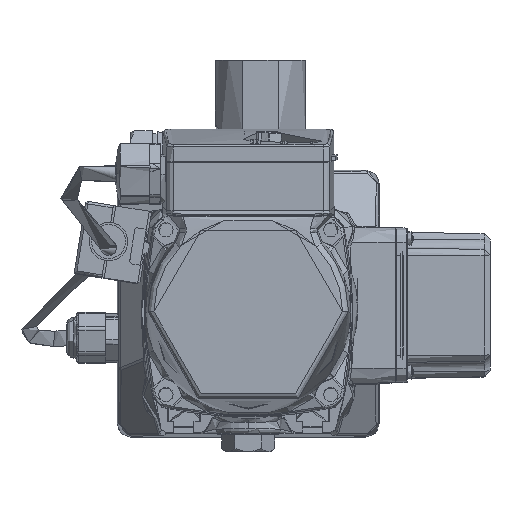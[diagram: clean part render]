
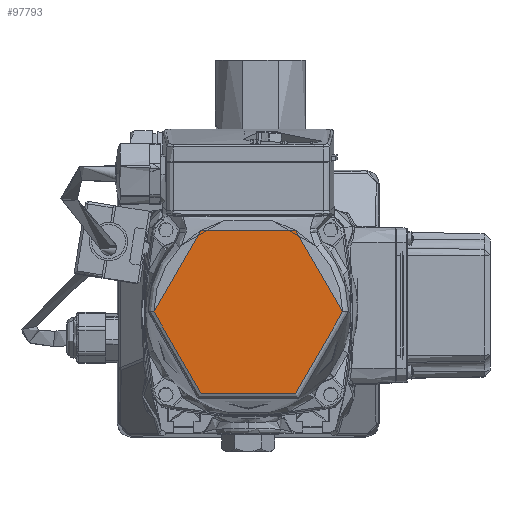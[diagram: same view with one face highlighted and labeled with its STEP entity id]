
A CAD part, top view. The second image highlights one B-rep face of the part: STEP entity #97793.
In plain terms, the highlighted planar face has unit normal (0, 0, 1).
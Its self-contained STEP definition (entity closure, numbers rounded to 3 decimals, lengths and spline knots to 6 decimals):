
#45680=CARTESIAN_POINT('',(0.06469,-0.360078,
0.22694));
#45681=DIRECTION('',(0.,0.,1.));
#45682=DIRECTION('',(1.,0.,0.));
#45683=AXIS2_PLACEMENT_3D('',#45680,#45681,#45682);
#45685=CARTESIAN_POINT('',(0.06469,-0.360078,
0.22694));
#45686=DIRECTION('',(0.,0.,1.));
#45687=DIRECTION('',(-1.,0.,0.));
#45688=AXIS2_PLACEMENT_3D('',#45685,#45686,#45687);
#60570=CARTESIAN_POINT('',(0.10351,-0.360078,
0.22694));
#60571=VERTEX_POINT('',#60570);
#60572=CARTESIAN_POINT('',(0.02587,-0.360078,
0.22694));
#60573=VERTEX_POINT('',#60572);
#97784=CARTESIAN_POINT('',(0.06469,-0.360078,
0.22694));
#97785=DIRECTION('',(0.,0.,1.));
#97786=DIRECTION('',(1.,0.,0.));
#97787=AXIS2_PLACEMENT_3D('',#97784,#97785,#97786);
#97788=PLANE('',#97787);
#97789=ORIENTED_EDGE('',*,*,#76735,.F.);
#97790=ORIENTED_EDGE('',*,*,#76718,.F.);
#97791=EDGE_LOOP('',(#97789,#97790));
#97792=FACE_OUTER_BOUND('',#97791,.F.);
#97793=ADVANCED_FACE('',(#97792),#97788,.T.);
#45684=CIRCLE('',#45683,0.03882);
#45689=CIRCLE('',#45688,0.03882);
#76718=EDGE_CURVE('',#60573,#60571,#45689,.T.);
#76735=EDGE_CURVE('',#60571,#60573,#45684,.T.);
